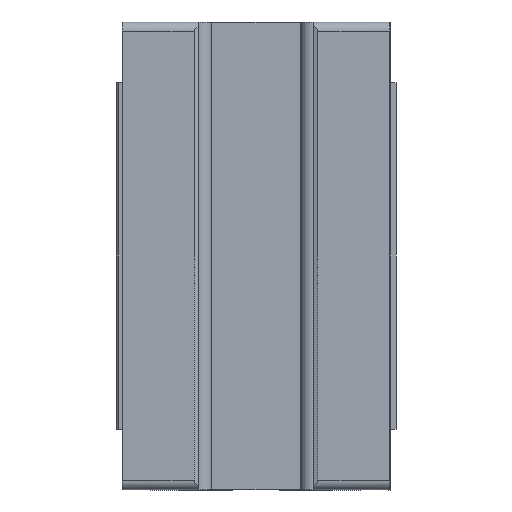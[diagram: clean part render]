
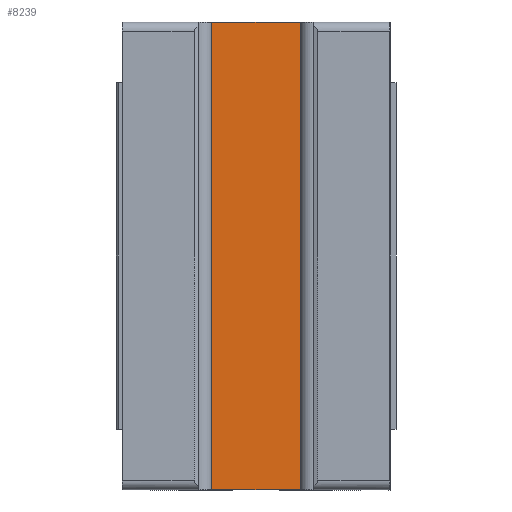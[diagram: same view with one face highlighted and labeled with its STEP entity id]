
A CAD part, front view. The second image highlights one B-rep face of the part: STEP entity #8239.
In plain terms, the highlighted planar face has unit normal (0, -1, 0).
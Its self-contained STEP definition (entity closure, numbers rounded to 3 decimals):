
#1558 = CARTESIAN_POINT ( 'NONE',  ( 7.255, 7.8, 61.05 ) ) ;
#1559 = DIRECTION ( 'NONE',  ( 1., 0., 0. ) ) ;
#1560 = VECTOR ( 'NONE', #1559, 1000. ) ;
#1561 = CARTESIAN_POINT ( 'NONE',  ( -20.1, 7.8, 61.05 ) ) ;
#1562 = LINE ( 'NONE', #1561, #1560 ) ;
#1697 = CARTESIAN_POINT ( 'NONE',  ( -7.255, 7.8, 61.05 ) ) ;
#1945 = LINE ( 'NONE', #1988, #1987 ) ;
#1986 = DIRECTION ( 'NONE',  ( 0., 0., 1. ) ) ;
#1987 = VECTOR ( 'NONE', #1986, 1000. ) ;
#1988 = CARTESIAN_POINT ( 'NONE',  ( -7.255, 7.8, -9.1 ) ) ;
#4437 = VERTEX_POINT ( 'NONE', #1697 ) ;
#4442 = EDGE_CURVE ( 'NONE', #4437, #4443, #1562, .T. ) ;
#4443 = VERTEX_POINT ( 'NONE', #1558 ) ;
#5769 = DIRECTION ( 'NONE',  ( 0., 1., 0. ) ) ;
#5998 = DIRECTION ( 'NONE',  ( -1., 0., 0. ) ) ;
#6567 = CARTESIAN_POINT ( 'NONE',  ( -7.255, 7.8, -9.05 ) ) ;
#6568 = DIRECTION ( 'NONE',  ( -1., 0., 0. ) ) ;
#6569 = VECTOR ( 'NONE', #6568, 1000. ) ;
#6570 = CARTESIAN_POINT ( 'NONE',  ( -20.1, 7.8, -9.05 ) ) ;
#6571 = LINE ( 'NONE', #6570, #6569 ) ;
#6572 = CARTESIAN_POINT ( 'NONE',  ( 7.255, 7.8, -9.05 ) ) ;
#6690 = CARTESIAN_POINT ( 'NONE',  ( 7.255, 7.8, -9.1 ) ) ;
#6691 = AXIS2_PLACEMENT_3D ( 'NONE', #6690, #5769, #5998 ) ;
#6694 = PLANE ( 'NONE',  #6691 ) ;
#6695 = FACE_OUTER_BOUND ( 'NONE', #8289, .T. ) ;
#7974 = ORIENTED_EDGE ( 'NONE', *, *, #12224, .F. ) ;
#7977 = EDGE_CURVE ( 'NONE', #12220, #4443, #10454, .T. ) ;
#8084 = EDGE_CURVE ( 'NONE', #12226, #4437, #1945, .T. ) ;
#8239 = ADVANCED_FACE ( 'NONE', ( #6695 ), #6694, .F. ) ;
#8243 = ORIENTED_EDGE ( 'NONE', *, *, #7977, .T. ) ;
#8283 = ORIENTED_EDGE ( 'NONE', *, *, #4442, .F. ) ;
#8285 = ORIENTED_EDGE ( 'NONE', *, *, #8084, .F. ) ;
#8289 = EDGE_LOOP ( 'NONE', ( #8243, #8283, #8285, #7974 ) ) ;
#10450 = DIRECTION ( 'NONE',  ( 0., 0., 1. ) ) ;
#10451 = VECTOR ( 'NONE', #10450, 1000. ) ;
#10453 = CARTESIAN_POINT ( 'NONE',  ( 7.255, 7.8, -9.1 ) ) ;
#10454 = LINE ( 'NONE', #10453, #10451 ) ;
#12220 = VERTEX_POINT ( 'NONE', #6572 ) ;
#12224 = EDGE_CURVE ( 'NONE', #12220, #12226, #6571, .T. ) ;
#12226 = VERTEX_POINT ( 'NONE', #6567 ) ;
